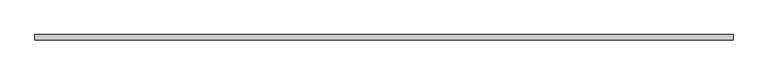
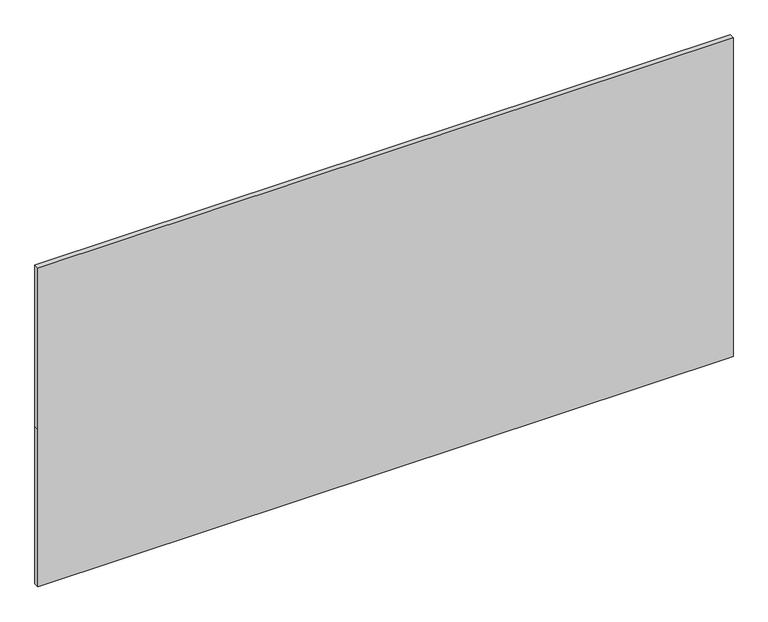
"""IFC4 building model written with IfcOpenShell, lengths in millimetres: plate geometry, Panneau système : Vitrages extérieur."""

from ifc_helpers import new_model, si_unit, frame, origin, place, context, project, spatial, polyline, outline, extrude, source, transform, mapped, element, save


def plate_5b870958(model_context):
    return source(origin(), model_context, "Body", "SweptSolid", [
        extrude(outline(polyline([(0.0, -1609.8951724), (0.0, 1609.8951724), (771.05362, 1609.8951724), (1562.10724, 1609.8951724), (1562.10724, -1609.8951724), (771.05362, -1609.8951724), (0.0, -1609.8951724)])), frame((0.0, -12.0, 0.0), z_axis=(0.0, 1.0, 0.0), x_axis=(0.0, 0.0, 1.0)), (0.0, 0.0, 1.0), 24.0),
    ])


if __name__ == "__main__":
    model = new_model("IFC4")
    model_context = context("Model", 3, world=origin())
    ifc_project = project(units=[si_unit("LENGTHUNIT", "METRE", prefix="MILLI")], contexts=[model_context])
    site = spatial("IfcSite", under=ifc_project)
    building = spatial("IfcBuilding", under=site)
    placement = place(None, origin())
    plate_shape = plate_5b870958(model_context)
    element("IfcPlate", 1, ObjectType="Panneau système : Vitrages extérieur", at=placement, inside=building, context=model_context, shape_type="MappedRepresentation", body=[
        mapped(plate_shape, transform((0.0, 0.0, 0.0), x_axis=(1.0, 0.0, 0.0), y_axis=(0.0, 1.0, 0.0), z_axis=(0.0, 0.0, 1.0))),
    ])
    save(model, "model.ifc")
